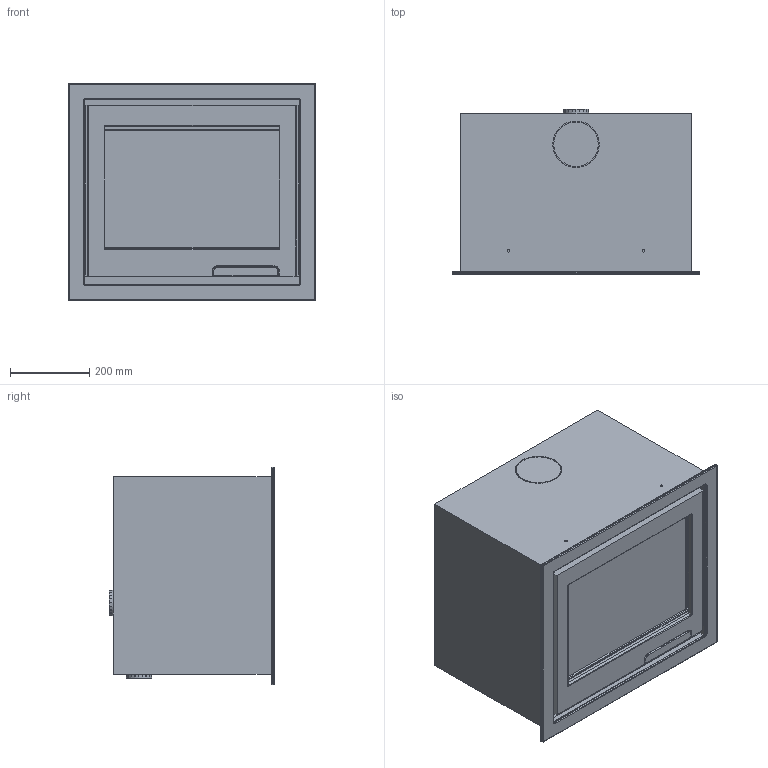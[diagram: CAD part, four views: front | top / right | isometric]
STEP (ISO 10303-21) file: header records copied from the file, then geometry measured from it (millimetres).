
FILE_DESCRIPTION( ( 'Unknown' ), '1' );
FILE_NAME( 'C:/Users/Andersc/AppData/Roaming/Unigraphics Solutions/Solid Edge/Insight/insight/Insight/interior models/Ci6 GjutjärnAssembly.stp', 'Unknown', ( 'Unknown' ), ( 'Unknown' ), 'PSStep 17.0.49', 'Unknown', ' ' );
FILE_SCHEMA( ( 'AUTOMOTIVE_DESIGN { 1 0 10303 214 1 1 1 1 }' ) );
Length unit declared in the file: millimetre
Products named in the file (8): Assem1; IM Stomme Ci6; IM Thermotte Ci6; IM Gjutjärnsbotten Ci6; IM Inre Glas Ci6; IM Gjutjärnsram Ci6; IM handtag gjutjärn Ci6; IM Luckagjutjärn Ci6
Assembly tree (7 placements, depth 2):
  Assem1
    IM Stomme Ci6
    IM Thermotte Ci6
    IM Gjutjärnsbotten Ci6
    IM Inre Glas Ci6
    IM Gjutjärnsram Ci6
    IM handtag gjutjärn Ci6
    IM Luckagjutjärn Ci6
Bounding box: 623.26 x 416 x 546.86 mm (x, y, z)
Volume: 91854960 mm3; surface area: 4307575.2 mm2
Topology: 7 solids, 7 shells, 1190 faces, 3190 edges, 2077 vertices
Faces by surface type: plane 949, cylinder 116, extrusion 61, bspline 44, cone 10, torus 10
Entity records: 51026 total; most frequent: CARTESIAN_POINT 12497, ORIENTED_EDGE 6376, DIRECTION 5253, EDGE_CURVE 3188, VECTOR 2447, LINE 2386, VERTEX_POINT 2077, AXIS2_PLACEMENT_3D 1403
